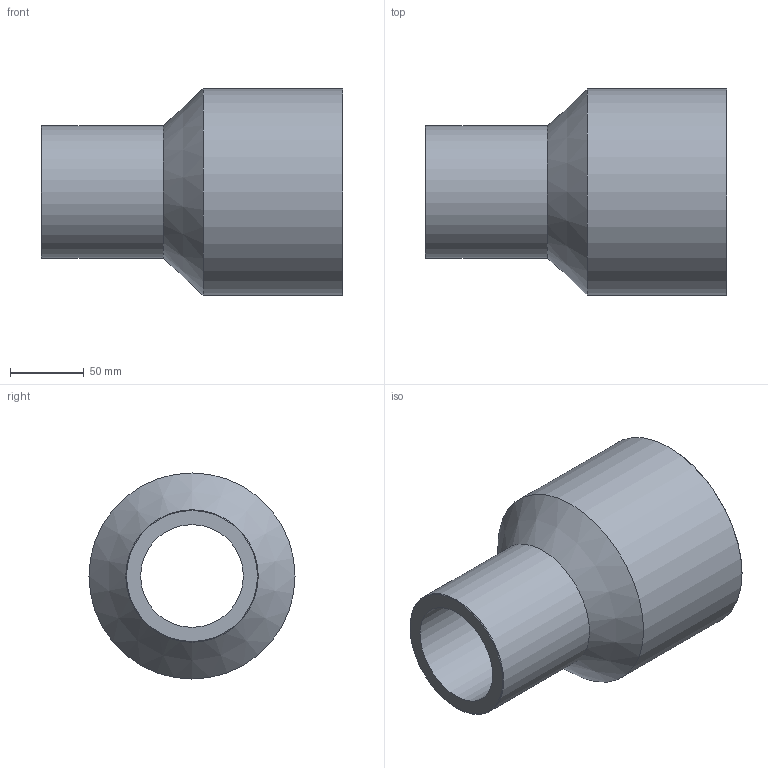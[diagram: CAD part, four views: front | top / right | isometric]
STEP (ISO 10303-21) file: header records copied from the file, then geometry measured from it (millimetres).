
FILE_DESCRIPTION(/* description */ ('Unknown'),/* implementation_level */ '2;1');
FILE_NAME(/* name */ 'RP140090G',/* time_stamp */ '2021-09-16T16:55:09+02:00',/* author */ ('Unknown'),/* organization */ ('Unknown'),/* preprocessor_version */ 'ST-DEVELOPER v16.7',/* originating_system */ 'Solid Edge',/* authorisation */ 'Unknown');
FILE_SCHEMA (('AUTOMOTIVE_DESIGN {1 0 10303 214 3 1 1}'));
Length unit declared in the file: millimetre
Products named in the file (1): RP140090G
Bounding box: 205 x 140 x 140 mm (x, y, z)
Volume: 946818.5 mm3; surface area: 146067.8 mm2
Topology: 1 solids, 1 shells, 10 faces, 19 edges, 11 vertices
Faces by surface type: cylinder 4, cone 4, plane 2
Full cylindrical faces by diameter (mm): 69.8 x1, 90 x1, 108.6 x1, 140 x1
Entity records: 238 total; most frequent: DIRECTION 42, CARTESIAN_POINT 31, AXIS2_PLACEMENT_3D 21, ORIENTED_EDGE 20, EDGE_LOOP 20, FACE_BOUND 20, EDGE_CURVE 10, VERTEX_POINT 10
